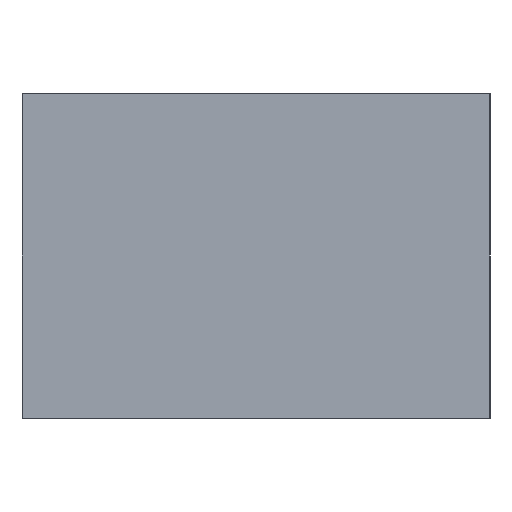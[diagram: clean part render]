
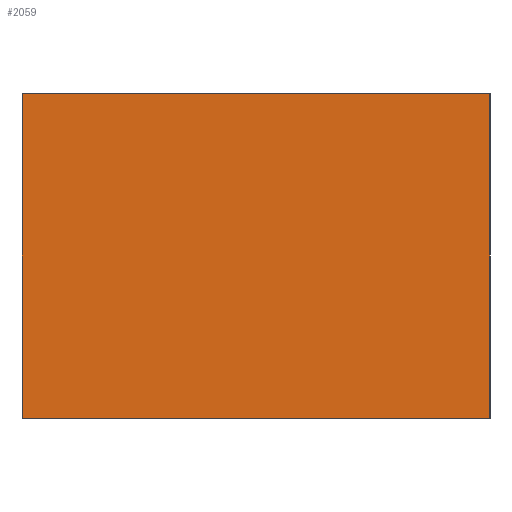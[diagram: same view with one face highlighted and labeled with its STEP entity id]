
A CAD part, left-side view. The second image highlights one B-rep face of the part: STEP entity #2059.
In plain terms, the highlighted planar face has unit normal (-1, 0, 0).
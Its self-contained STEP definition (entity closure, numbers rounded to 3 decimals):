
#60 = CARTESIAN_POINT ( 'NONE',  ( -182., -35.5, 0. ) ) ;
#308 = CARTESIAN_POINT ( 'NONE',  ( -182., 35.5, 49.3 ) ) ;
#472 = ORIENTED_EDGE ( 'NONE', *, *, #547, .T. ) ;
#506 = VERTEX_POINT ( 'NONE', #60 ) ;
#547 = EDGE_CURVE ( 'NONE', #2189, #506, #2787, .T. ) ;
#638 = VERTEX_POINT ( 'NONE', #2259 ) ;
#792 = EDGE_CURVE ( 'NONE', #638, #506, #1039, .T. ) ;
#850 = DIRECTION ( 'NONE',  ( 0., -1., 0. ) ) ;
#1039 = LINE ( 'NONE', #2358, #1288 ) ;
#1157 = LINE ( 'NONE', #308, #1959 ) ;
#1288 = VECTOR ( 'NONE', #3452, 1000. ) ;
#1437 = EDGE_LOOP ( 'NONE', ( #472, #1507, #2402, #3265 ) ) ;
#1507 = ORIENTED_EDGE ( 'NONE', *, *, #792, .F. ) ;
#1733 = EDGE_CURVE ( 'NONE', #2486, #2189, #1157, .T. ) ;
#1915 = LINE ( 'NONE', #3496, #2220 ) ;
#1926 = DIRECTION ( 'NONE',  ( 0., 0., -1. ) ) ;
#1950 = VECTOR ( 'NONE', #850, 1000. ) ;
#1956 = CARTESIAN_POINT ( 'NONE',  ( -182., 35.5, 0. ) ) ;
#1959 = VECTOR ( 'NONE', #1926, 1000. ) ;
#1967 = FACE_OUTER_BOUND ( 'NONE', #1437, .T. ) ;
#2059 = ADVANCED_FACE ( 'NONE', ( #1967 ), #3069, .F. ) ;
#2189 = VERTEX_POINT ( 'NONE', #2633 ) ;
#2209 = DIRECTION ( 'NONE',  ( 0., -1., 0. ) ) ;
#2220 = VECTOR ( 'NONE', #2209, 1000. ) ;
#2240 = DIRECTION ( 'NONE',  ( 1., 0., 0. ) ) ;
#2259 = CARTESIAN_POINT ( 'NONE',  ( -182., -35.5, 49.3 ) ) ;
#2358 = CARTESIAN_POINT ( 'NONE',  ( -182., -35.5, 49.3 ) ) ;
#2402 = ORIENTED_EDGE ( 'NONE', *, *, #3271, .F. ) ;
#2486 = VERTEX_POINT ( 'NONE', #2713 ) ;
#2633 = CARTESIAN_POINT ( 'NONE',  ( -182., 35.5, 0. ) ) ;
#2713 = CARTESIAN_POINT ( 'NONE',  ( -182., 35.5, 49.3 ) ) ;
#2727 = AXIS2_PLACEMENT_3D ( 'NONE', #3094, #2240, #3341 ) ;
#2787 = LINE ( 'NONE', #1956, #1950 ) ;
#3069 = PLANE ( 'NONE',  #2727 ) ;
#3094 = CARTESIAN_POINT ( 'NONE',  ( -182., 35.5, 49.3 ) ) ;
#3265 = ORIENTED_EDGE ( 'NONE', *, *, #1733, .T. ) ;
#3271 = EDGE_CURVE ( 'NONE', #2486, #638, #1915, .T. ) ;
#3341 = DIRECTION ( 'NONE',  ( 0., 0., -1. ) ) ;
#3452 = DIRECTION ( 'NONE',  ( 0., 0., -1. ) ) ;
#3496 = CARTESIAN_POINT ( 'NONE',  ( -182., 35.5, 49.3 ) ) ;
